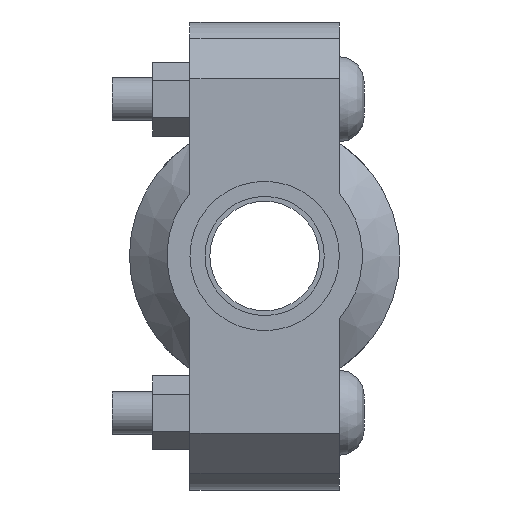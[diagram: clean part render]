
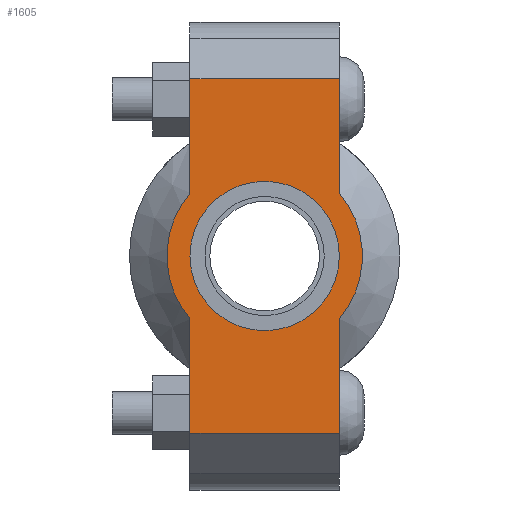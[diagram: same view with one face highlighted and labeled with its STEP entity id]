
A CAD part, left-side view. The second image highlights one B-rep face of the part: STEP entity #1605.
In plain terms, the highlighted planar face has unit normal (-1, 0, 0) as drawn and (0, 0, 1) by its records, which use the part's own axes.
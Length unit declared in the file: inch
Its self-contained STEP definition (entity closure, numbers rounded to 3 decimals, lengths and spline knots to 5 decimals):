
#160=LINE('',#2775,#257);
#175=LINE('',#2834,#272);
#183=LINE('',#2864,#280);
#185=LINE('',#2867,#282);
#186=LINE('',#2872,#283);
#187=LINE('',#2873,#284);
#257=VECTOR('',#2259,0.3937);
#272=VECTOR('',#2294,0.3937);
#280=VECTOR('',#2314,0.3937);
#282=VECTOR('',#2318,0.3937);
#283=VECTOR('',#2323,0.3937);
#284=VECTOR('',#2324,0.3937);
#348=FACE_BOUND('',#525,.T.);
#416=FACE_OUTER_BOUND('',#524,.T.);
#524=EDGE_LOOP('',(#1306,#1307,#1308,#1309,#1310,#1311,#1312,#1313));
#525=EDGE_LOOP('',(#1314));
#607=CIRCLE('',#1833,0.6575);
#631=CIRCLE('',#1885,0.86);
#632=CIRCLE('',#1886,0.86);
#703=VERTEX_POINT('',#2601);
#744=VERTEX_POINT('',#2772);
#745=VERTEX_POINT('',#2774);
#766=VERTEX_POINT('',#2829);
#767=VERTEX_POINT('',#2833);
#776=VERTEX_POINT('',#2859);
#777=VERTEX_POINT('',#2863);
#778=VERTEX_POINT('',#2869);
#779=VERTEX_POINT('',#2871);
#867=EDGE_CURVE('',#703,#703,#607,.T.);
#924=EDGE_CURVE('',#745,#744,#160,.T.);
#949=EDGE_CURVE('',#767,#766,#175,.T.);
#962=EDGE_CURVE('',#777,#776,#183,.T.);
#964=EDGE_CURVE('',#777,#744,#185,.T.);
#965=EDGE_CURVE('',#776,#778,#631,.T.);
#966=EDGE_CURVE('',#778,#779,#186,.T.);
#967=EDGE_CURVE('',#767,#779,#187,.T.);
#968=EDGE_CURVE('',#766,#745,#632,.T.);
#1306=ORIENTED_EDGE('',*,*,#964,.F.);
#1307=ORIENTED_EDGE('',*,*,#962,.T.);
#1308=ORIENTED_EDGE('',*,*,#965,.T.);
#1309=ORIENTED_EDGE('',*,*,#966,.T.);
#1310=ORIENTED_EDGE('',*,*,#967,.F.);
#1311=ORIENTED_EDGE('',*,*,#949,.T.);
#1312=ORIENTED_EDGE('',*,*,#968,.T.);
#1313=ORIENTED_EDGE('',*,*,#924,.T.);
#1314=ORIENTED_EDGE('',*,*,#867,.T.);
#1445=PLANE('',#1884);
#1605=ADVANCED_FACE('',(#416,#348),#1445,.T.);
#1833=AXIS2_PLACEMENT_3D('',#2603,#2149,#2150);
#1884=AXIS2_PLACEMENT_3D('',#2868,#2319,#2320);
#1885=AXIS2_PLACEMENT_3D('',#2870,#2321,#2322);
#1886=AXIS2_PLACEMENT_3D('',#2874,#2325,#2326);
#2149=DIRECTION('center_axis',(0.,0.,-1.));
#2150=DIRECTION('ref_axis',(-1.,0.,0.));
#2259=DIRECTION('',(-1.,0.,0.));
#2294=DIRECTION('',(-1.,0.,0.));
#2314=DIRECTION('',(1.,0.,0.));
#2318=DIRECTION('',(0.,1.,0.));
#2319=DIRECTION('center_axis',(0.,0.,1.));
#2320=DIRECTION('ref_axis',(1.,0.,0.));
#2321=DIRECTION('center_axis',(0.,0.,1.));
#2322=DIRECTION('ref_axis',(-1.,0.,0.));
#2323=DIRECTION('',(1.,0.,0.));
#2324=DIRECTION('',(0.,-1.,0.));
#2325=DIRECTION('center_axis',(0.,0.,1.));
#2326=DIRECTION('ref_axis',(-1.,0.,0.));
#2601=CARTESIAN_POINT('',(0.6575,0.,0.875));
#2603=CARTESIAN_POINT('Origin',(0.,0.,0.875));
#2772=CARTESIAN_POINT('',(-1.56,0.6575,0.875));
#2774=CARTESIAN_POINT('',(-0.55434,0.6575,0.875));
#2775=CARTESIAN_POINT('',(2.06,0.6575,0.875));
#2829=CARTESIAN_POINT('',(0.55434,0.6575,0.875));
#2833=CARTESIAN_POINT('',(1.56,0.6575,0.875));
#2834=CARTESIAN_POINT('',(2.06,0.6575,0.875));
#2859=CARTESIAN_POINT('',(-0.55434,-0.6575,0.875));
#2863=CARTESIAN_POINT('',(-1.56,-0.6575,0.875));
#2864=CARTESIAN_POINT('',(-2.06,-0.6575,0.875));
#2867=CARTESIAN_POINT('',(-1.56,0.32875,0.875));
#2868=CARTESIAN_POINT('Origin',(0.,0.,
0.875));
#2869=CARTESIAN_POINT('',(0.55434,-0.6575,0.875));
#2870=CARTESIAN_POINT('Origin',(0.,0.,0.875));
#2871=CARTESIAN_POINT('',(1.56,-0.6575,0.875));
#2872=CARTESIAN_POINT('',(-2.06,-0.6575,0.875));
#2873=CARTESIAN_POINT('',(1.56,-0.32875,0.875));
#2874=CARTESIAN_POINT('Origin',(0.,0.,0.875));
